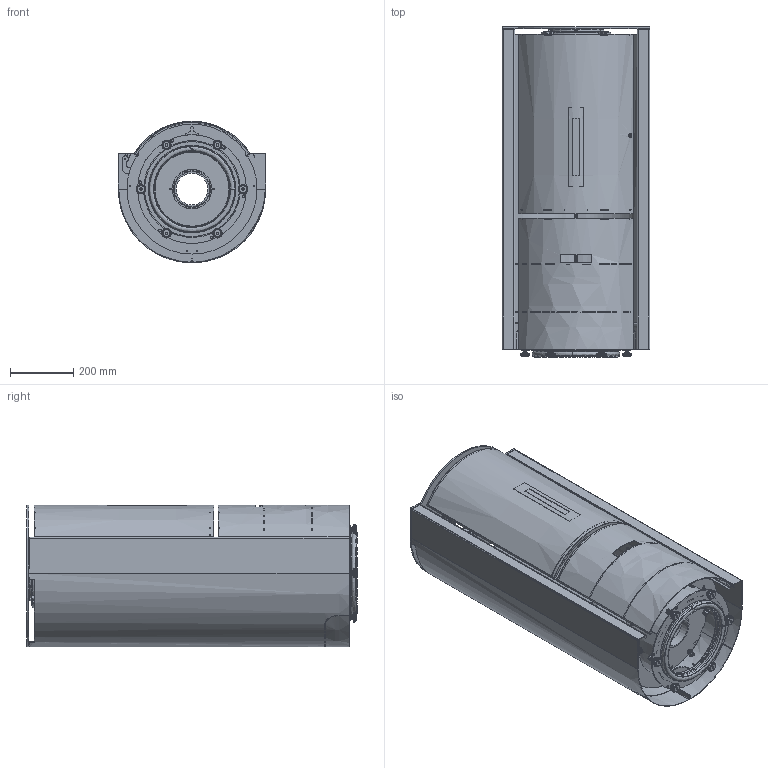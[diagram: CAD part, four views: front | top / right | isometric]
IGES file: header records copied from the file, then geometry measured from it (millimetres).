
Start section:  PTC IGES file: stuv30c.igs
Global section: file name: stuv30c.igs; native system: Creo Parametric by Parametric Technology Corporation; preprocessor: 2012230; author: edi; organization: Unknown; date: 20130425.161955; units: millimetre
Bounding box: 465 x 1042 x 446.8 mm (x, y, z)
Surface area: 4459195.1 mm2 (no closed solid volume)
Topology: 0 solids, 64 shells, 2068 faces, 4985 edges, 3073 vertices
Faces by surface type: bspline 1037, revolution 1031
